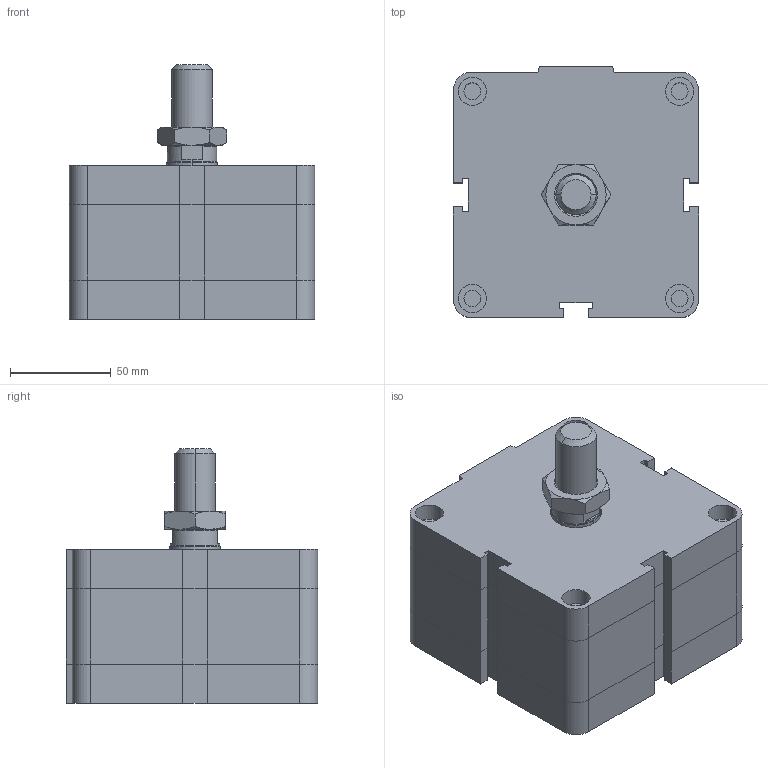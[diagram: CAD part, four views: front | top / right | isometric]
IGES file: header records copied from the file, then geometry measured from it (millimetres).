
Global section: file name: No Iges File Name specified; native system: Autodesk Inventor 2009; preprocessor: AutoDesk Inventor Iges Exporter R2009; author: rivolro1; date: 20081219.162810; units: millimetre
Bounding box: 122 x 125 x 126.5 mm (x, y, z)
Volume: 1120430.1 mm3; surface area: 89263 mm2
Topology: 3 solids, 3 shells, 216 faces, 472 edges, 282 vertices
Faces by surface type: plane 121, bspline 37, cylinder 20, cone 20, revolution 18
